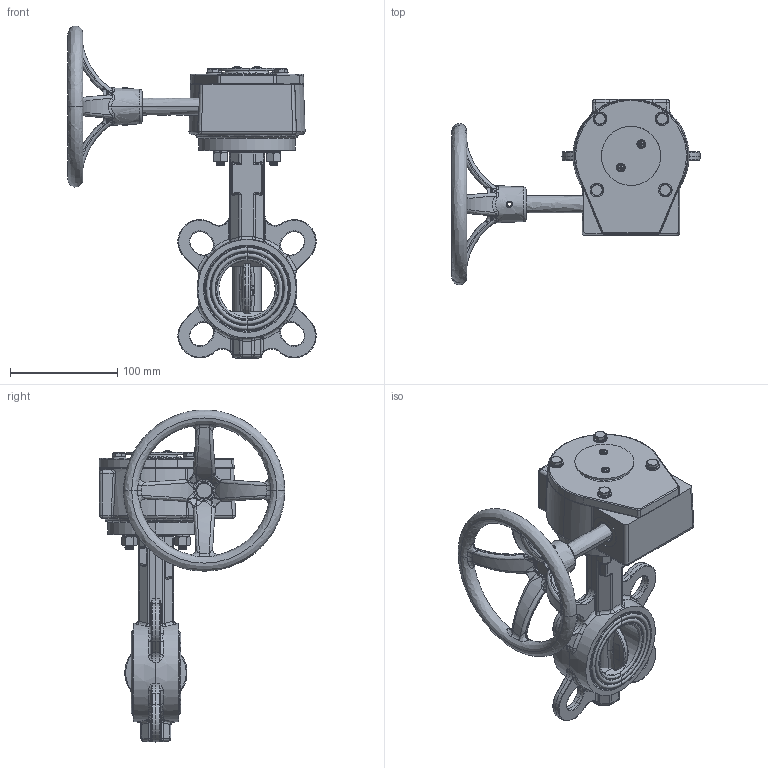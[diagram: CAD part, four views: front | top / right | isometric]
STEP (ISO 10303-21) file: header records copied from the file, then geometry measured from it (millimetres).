
FILE_DESCRIPTION(('STEP AP214'),'1');
FILE_NAME('50带涡轮头','2023-09-21T07:03:28',('YLS'),(' '),'Spatial InterOp 3D',' ',' ');
FILE_SCHEMA(('automotive_design'));
Length unit declared in the file: millimetre
Products named in the file (54): 1; 2; 3; 4; 5; 6; 7; 8; 9; 10; 11; 12; 13; 14; 15; 16; 17; 18; 19; 20; 21; 22; 23; 24; 25; 26; 27; 28; 29; 30; 31; 32; 33; 34; 35; 36; 37; 38; 39; 40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
Bounding box: 231.02 x 172.75 x 308.99 mm (x, y, z)
Volume: 597101.1 mm3; surface area: 330071.3 mm2
Topology: 39 solids, 674 shells, 2218 faces, 7063 edges, 5578 vertices
Faces by surface type: bspline 1459, cylinder 313, plane 187, torus 118, cone 98, sphere 33, extrusion 10
Entity records: 182807 total; most frequent: CARTESIAN_POINT 100004, ORIENTED_EDGE 10840, EDGE_CURVE 7005, STYLED_ITEM 6166, PRESENTATION_STYLE_ASSIGNMENT 6166, COLOUR_RGB 6166, VERTEX_POINT 5511, DIRECTION 4247
